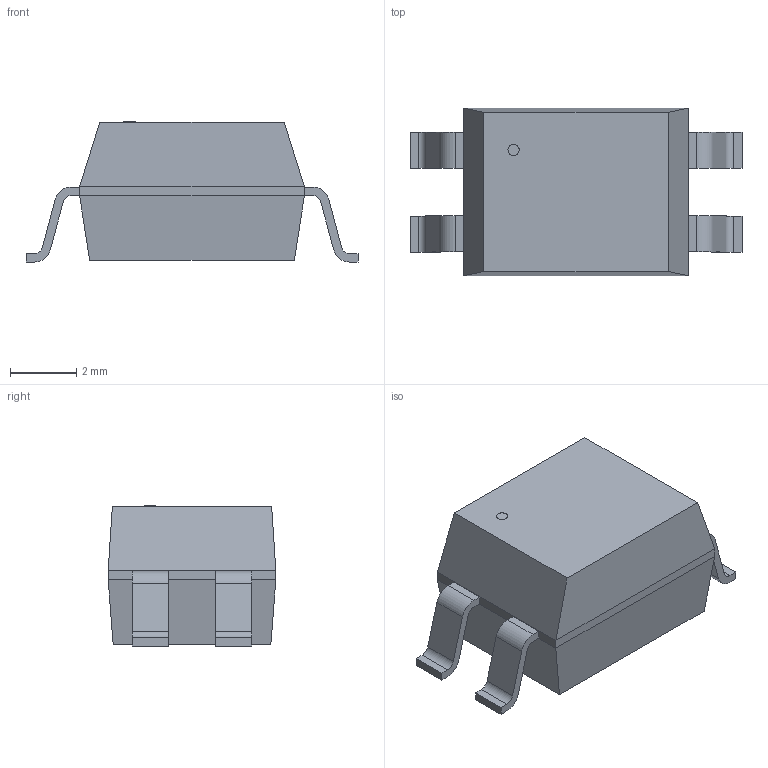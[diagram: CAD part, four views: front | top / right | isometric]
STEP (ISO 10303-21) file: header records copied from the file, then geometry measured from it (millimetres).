
FILE_DESCRIPTION(('STEP AP214'),'1');
FILE_NAME('SMD-4_VIS','2024-03-25T05:41:28',(''),(''),'','','');
FILE_SCHEMA(('AUTOMOTIVE_DESIGN'));
Length unit declared in the file: millimetre
Products named in the file (1): product
Bounding box: 10.06 x 5.08 x 4.24 mm (x, y, z)
Volume: 135.8 mm3; surface area: 187.6 mm2
Topology: 6 solids, 6 shells, 73 faces, 175 edges, 114 vertices
Faces by surface type: plane 56, cylinder 17
Full cylindrical faces by diameter (mm): 0.34 x1
Entity records: 2173 total; most frequent: DIRECTION 358, ORIENTED_EDGE 348, CARTESIAN_POINT 207, EDGE_CURVE 174, LINE 140, VECTOR 140, VERTEX_POINT 114, AXIS2_PLACEMENT_3D 109
